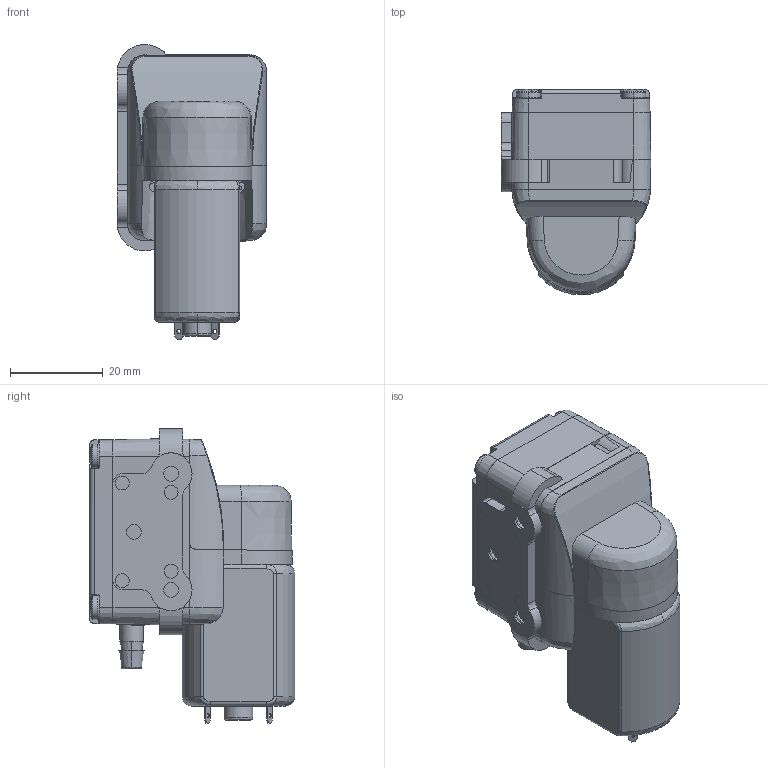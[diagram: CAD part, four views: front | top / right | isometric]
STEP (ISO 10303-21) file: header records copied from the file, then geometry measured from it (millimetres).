
FILE_DESCRIPTION (( 'STEP AP203' ), '1' );
FILE_NAME ('5KS Iron Core e.STEP', '2016-01-09T08:40:29', ( '' ), ( '' ), 'SwSTEP 2.0', 'SolidWorks 2014', '' );
FILE_SCHEMA (( 'CONFIG_CONTROL_DESIGN' ));
Length unit declared in the file: metre
Products named in the file (1): 5KS Iron Core e
Bounding box: 32.2 x 44.2 x 63.42 mm (x, y, z)
Surface area: 12227 mm2 (no closed solid volume)
Topology: 0 solids, 10 shells, 398 faces, 1232 edges, 863 vertices
Faces by surface type: plane 192, cylinder 102, bspline 72, cone 32
Entity records: 22594 total; most frequent: CARTESIAN_POINT 12441, ORIENTED_EDGE 2205, DIRECTION 1708, EDGE_CURVE 1232, VERTEX_POINT 863, VECTOR 572, LINE 572, AXIS2_PLACEMENT_3D 568
